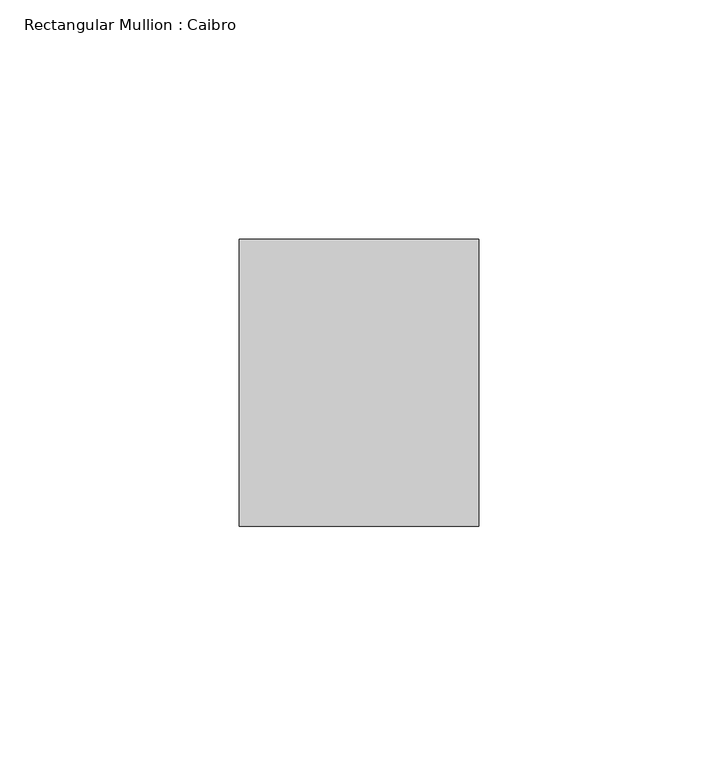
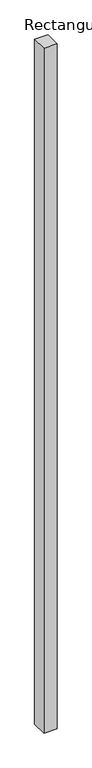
"""IFC4 building model written with IfcOpenShell, lengths in millimetres: member geometry, Rectangular Mullion : Caibro."""

from ifc_helpers import new_model, si_unit, frame, origin, place, context, project, spatial, polyline, outline, extrude, source, transform, mapped, element, save


def rectangular_mullion_caibro_650698a1(model_context):
    return source(origin(), model_context, "Body", "SweptSolid", [
        extrude(outline(polyline([(-25.0, -60.0), (-25.0, 0.0), (25.0, 0.0), (25.0, -60.0), (-25.0, -60.0)])), frame((0.0, 0.0, -2757.5618379), z_axis=(0.0, 0.0, 1.0), x_axis=(1.0, 0.0, 0.0)), (0.0, 0.0, 1.0), 2757.5618379),
    ])


if __name__ == "__main__":
    model = new_model("IFC4")
    model_context = context("Model", 3, world=origin())
    ifc_project = project(units=[si_unit("LENGTHUNIT", "METRE", prefix="MILLI")], contexts=[model_context])
    site = spatial("IfcSite", under=ifc_project)
    building = spatial("IfcBuilding", under=site)
    placement = place(None, origin())
    rectangular_mullion_caibro_shape = rectangular_mullion_caibro_650698a1(model_context)
    element("IfcMember", 1, ObjectType="Rectangular Mullion : Caibro", at=placement, inside=building, context=model_context, shape_type="MappedRepresentation", body=[
        mapped(rectangular_mullion_caibro_shape, transform((0.0, 0.0, 0.0), x_axis=(1.0, 0.0, 0.0), y_axis=(0.0, 1.0, 0.0), z_axis=(0.0, 0.0, 1.0))),
    ])
    save(model, "model.ifc")
